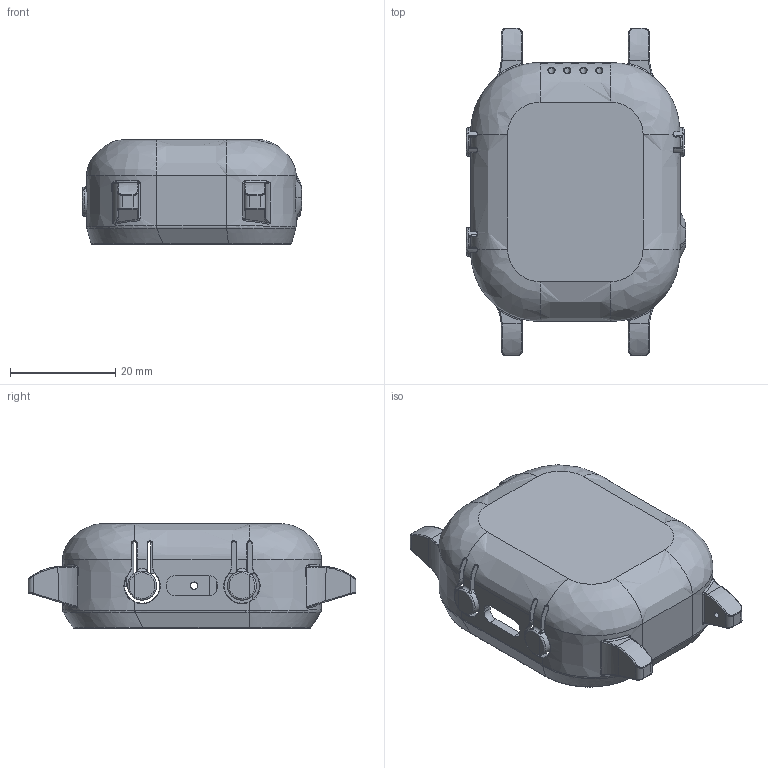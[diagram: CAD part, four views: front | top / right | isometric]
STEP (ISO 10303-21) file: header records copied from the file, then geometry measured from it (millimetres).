
FILE_DESCRIPTION((''),'2;1');
FILE_NAME('WATCH_1_1_1_1','2026-07-15T17:17:50',('wgx'),(''),'CREO PARAMETRIC BY PTC INC, 2024063','CREO PARAMETRIC BY PTC INC, 2024063','');
FILE_SCHEMA(('AUTOMOTIVE_DESIGN { 1 0 10303 214 1 1 1 1 }'));
Products named in the file (1): WATCH_1_1_1_1
Bounding box: 41.71 x 62.36 x 19.88 mm (x, y, z)
Volume: 10226.9 mm3; surface area: 11320.1 mm2
Topology: 1 solids, 3 shells, 683 faces, 1809 edges, 1132 vertices
Faces by surface type: bspline 238, cylinder 202, plane 181, torus 32, extrusion 18, cone 12
Entity records: 56826 total; most frequent: CARTESIAN_POINT 36061, ORIENTED_EDGE 3618, DIRECTION 2412, PRESENTATION_STYLE_ASSIGNMENT 1810, STYLED_ITEM 1810, CURVE_STYLE 1809, EDGE_CURVE 1809, VERTEX_POINT 1132
